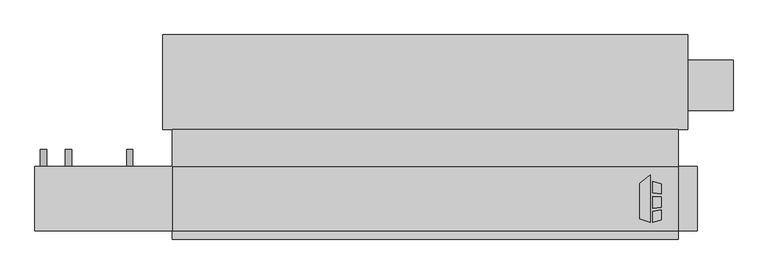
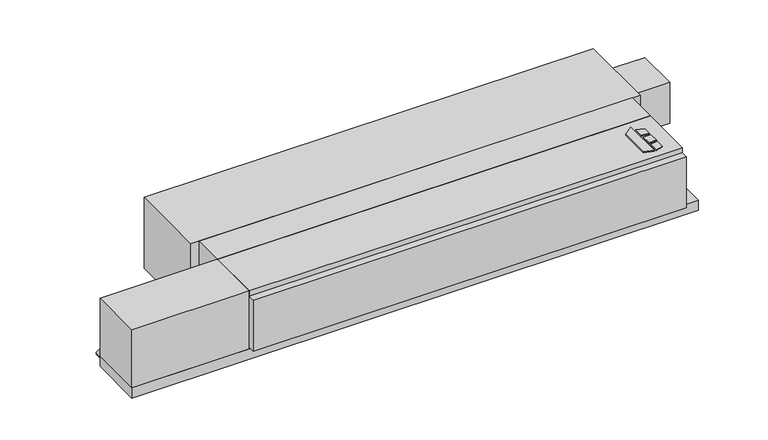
"""IFC4 building model written with IfcOpenShell, lengths in millimetres: proxy geometry, Concealed_Horizontal_Fan_Coil_Unit_With_Plenum_-_CPF_-_IEC_-_4-Pipe_LH : Size 12 - 115v/60Hz/1Ph - 4/1 Coil."""

import ifcopenshell
import ifcopenshell.guid

model = None  # the IFC model being written
_history = None  # IfcOwnerHistory: only IFC2X3 demands one
_inside = {}  # id of a spatial element -> (the spatial element, [elements in it])
_under = {}  # id of a project, library or spatial element -> (it, [spatial elements below it])
_declared = {}  # id of a project -> (the project, [libraries it declares])
_typed = {}  # id of a type object -> (the type object, [elements of that type])
_made_of = {}  # id of a material, layer set ... -> (it, [elements and type objects made of it])


def new_model(schema):
    """Start an empty IFC model of exactly this schema.

    Asked for "IFC4X3", IfcOpenShell would pick the latest addendum, in which some entities
    have other attributes; the version numbers below select the first issue.
    IFC2X3 requires an IfcOwnerHistory on every rooted entity: one is made here for all.
    """
    global model, _history
    if schema == "IFC4X3":
        model = ifcopenshell.file(schema_version=(4, 3, 0, 0))
    else:
        model = ifcopenshell.file(schema=schema)
    _inside.clear()
    _under.clear()
    _declared.clear()
    _typed.clear()
    _made_of.clear()
    _history = None
    if model.schema == "IFC2X3":
        org = make("IfcOrganization", Name="unknown")
        user = make(
            "IfcPersonAndOrganization",
            ThePerson=make("IfcPerson", FamilyName="unknown"),
            TheOrganization=org,
        )
        app = make(
            "IfcApplication",
            ApplicationDeveloper=org,
            Version="unknown",
            ApplicationFullName="unknown",
            ApplicationIdentifier="unknown",
        )
        _history = make(
            "IfcOwnerHistory",
            OwningUser=user,
            OwningApplication=app,
            ChangeAction="ADDED",
            CreationDate=0,
        )
    return model


def make(cls, **values):
    """One entity of the class cls with the attributes given. An attribute that is None is left unset."""
    return model.create_entity(
        cls, **{name: value for name, value in values.items() if value is not None}
    )


def rooted(cls, **values):
    """An entity with a GlobalId (a new one), such as an element, a storey or a relation."""
    return make(cls, GlobalId=ifcopenshell.guid.new(), OwnerHistory=_history, **values)


def si_unit(unit_type, name, prefix=None):
    """IfcSIUnit, for example si_unit("LENGTHUNIT", "METRE", prefix="MILLI")."""
    return make("IfcSIUnit", UnitType=unit_type, Prefix=prefix, Name=name)


def assignment(units):
    """IfcUnitAssignment: the units of a project."""
    return None if units is None else make("IfcUnitAssignment", Units=units)


def point(xyz):
    """IfcCartesianPoint."""
    return None if xyz is None else make("IfcCartesianPoint", Coordinates=xyz)


def direction(xyz):
    """IfcDirection."""
    return None if xyz is None else make("IfcDirection", DirectionRatios=xyz)


def frame(location, z_axis=None, x_axis=None):
    """IfcAxis2Placement3D, a coordinate frame: its origin and axes. An axis left out is left unset."""
    return make(
        "IfcAxis2Placement3D",
        Location=point(location),
        Axis=direction(z_axis),
        RefDirection=direction(x_axis),
    )


def frame_2d(location, x_axis=None):
    """IfcAxis2Placement2D, a coordinate frame in the plane: its origin and x axis."""
    return make(
        "IfcAxis2Placement2D", Location=point(location), RefDirection=direction(x_axis)
    )


def origin():
    """The frame at (0, 0, 0) with its axes left unset."""
    return frame((0.0, 0.0, 0.0))


def origin_with_axes():
    """The frame at (0, 0, 0) with the z axis (0, 0, 1) and the x axis (1, 0, 0) written out."""
    return frame((0.0, 0.0, 0.0), z_axis=(0.0, 0.0, 1.0), x_axis=(1.0, 0.0, 0.0))


def place(relative_to, where):
    """IfcLocalPlacement: puts the frame where relative to a parent placement (None: the world)."""
    return make(
        "IfcLocalPlacement", PlacementRelTo=relative_to, RelativePlacement=where
    )


def context(
    kind, dimensions, precision=None, world=None, true_north=None, identifier=None
):
    """IfcGeometricRepresentationContext, for example the 3D "Model" context."""
    return make(
        "IfcGeometricRepresentationContext",
        ContextIdentifier=identifier,
        ContextType=kind,
        CoordinateSpaceDimension=dimensions,
        Precision=precision,
        WorldCoordinateSystem=world,
        TrueNorth=true_north,
    )


def project(units=None, contexts=None):
    """IfcProject with its units and contexts."""
    return rooted(
        "IfcProject",
        Name="project",
        RepresentationContexts=contexts,
        UnitsInContext=assignment(units),
    )


def spatial(cls, under=None, at=None, **own):
    """A site, building, storey or space (cls), placed at a placement, below another one or the project."""
    s = rooted(cls, ObjectPlacement=at, **own)
    if under is not None:
        _under.setdefault(under.id(), (under, []))[1].append(s)
    return s


def polyline(points):
    """IfcPolyline through the points."""
    return make("IfcPolyline", Points=[point(p) for p in points])


def circle_curve(where, radius):
    """IfcCircle in the frame where."""
    return make("IfcCircle", Position=where, Radius=radius)


def trimmed(basis, trim1, trim2, sense, master):
    """IfcTrimmedCurve: the piece of a basis curve between two trims."""
    return make(
        "IfcTrimmedCurve",
        BasisCurve=basis,
        Trim1=trim1,
        Trim2=trim2,
        SenseAgreement=sense,
        MasterRepresentation=master,
    )


def segment(curve, same_sense, transition):
    """IfcCompositeCurveSegment."""
    return make(
        "IfcCompositeCurveSegment",
        Transition=transition,
        SameSense=same_sense,
        ParentCurve=curve,
    )


def composite_curve(segments, self_intersect=None):
    """IfcCompositeCurve: segments joined end to end."""
    return make("IfcCompositeCurve", Segments=segments, SelfIntersect=self_intersect)


def outline(outer, holes=None, kind="AREA"):
    """IfcArbitraryClosedProfileDef: a profile drawn as a closed curve; with holes, ...WithVoids."""
    if holes is None:
        return make("IfcArbitraryClosedProfileDef", ProfileType=kind, OuterCurve=outer)
    return make(
        "IfcArbitraryProfileDefWithVoids",
        ProfileType=kind,
        OuterCurve=outer,
        InnerCurves=holes,
    )


def extrude(swept, where, along, depth):
    """IfcExtrudedAreaSolid: the profile swept, set in the frame where, extruded along a direction by depth."""
    return make(
        "IfcExtrudedAreaSolid",
        SweptArea=swept,
        Position=where,
        ExtrudedDirection=direction(along),
        Depth=depth,
    )


def shape(context_of_items, identifier, shape_type, items):
    """IfcShapeRepresentation: the items that make up one representation, for example the "Body"."""
    return make(
        "IfcShapeRepresentation",
        ContextOfItems=context_of_items,
        RepresentationIdentifier=identifier,
        RepresentationType=shape_type,
        Items=items,
    )


def source(mapping_origin, context_of_items, identifier, shape_type, items):
    """IfcRepresentationMap: a shape defined once, which mapped items show again and again."""
    return make(
        "IfcRepresentationMap",
        MappingOrigin=mapping_origin,
        MappedRepresentation=shape(context_of_items, identifier, shape_type, items),
    )


def transform(
    local_origin,
    x_axis=None,
    y_axis=None,
    z_axis=None,
    scale=None,
    scale2=None,
    scale3=None,
    uniform=True,
):
    """IfcCartesianTransformationOperator3D, or its non-uniform kind. x_axis, y_axis, z_axis: its Axis1, 2, 3."""
    if uniform:
        return make(
            "IfcCartesianTransformationOperator3D",
            Axis1=direction(x_axis),
            Axis2=direction(y_axis),
            LocalOrigin=point(local_origin),
            Scale=scale,
            Axis3=direction(z_axis),
        )
    return make(
        "IfcCartesianTransformationOperator3DnonUniform",
        Axis1=direction(x_axis),
        Axis2=direction(y_axis),
        LocalOrigin=point(local_origin),
        Scale=scale,
        Axis3=direction(z_axis),
        Scale2=scale2,
        Scale3=scale3,
    )


def mapped(mapping_source, mapping_target):
    """IfcMappedItem: shows the shape of a source again, moved by a transform."""
    return make(
        "IfcMappedItem", MappingSource=mapping_source, MappingTarget=mapping_target
    )


def made_of(thing, what):
    """Note that an element or type object is made of a material, layer set ...; save() writes the relation."""
    if what is not None:
        _made_of.setdefault(what.id(), (what, []))[1].append(thing)
    return thing


def element(
    cls,
    number,
    at=None,
    inside=None,
    cuts=None,
    type_object=None,
    material=None,
    context=None,
    identifier="Body",
    shape_type=None,
    held_by="IfcProductDefinitionShape",
    body=None,
    shapes=None,
    **own,
):
    """One element of the class cls, such as IfcWall. Its Tag is "e" and its number.

    at: its placement. inside: the storey or other place that contains it. cuts: it is an
    opening in that element (IfcRelVoidsElement). A single representation is given by context,
    identifier, shape_type and body (its items); several are given by shapes. held_by: the class
    of the entity that holds the representations. save() writes the other relations.
    """
    e = rooted(cls, Tag="e%d" % number, ObjectPlacement=at, **own)
    if body is not None:
        shapes = [shape(context, identifier, shape_type, body)]
    if shapes is not None:
        e.Representation = make(held_by, Representations=shapes)
    if inside is not None:
        _inside.setdefault(inside.id(), (inside, []))[1].append(e)
    if cuts is not None:
        rooted(
            "IfcRelVoidsElement", RelatingBuildingElement=cuts, RelatedOpeningElement=e
        )
    if type_object is not None:
        _typed.setdefault(type_object.id(), (type_object, []))[1].append(e)
    return made_of(e, material)


def aggregate(whole, parts):
    """IfcRelAggregates: a whole, such as a stair, and the parts it consists of."""
    return rooted("IfcRelAggregates", RelatingObject=whole, RelatedObjects=parts)


def save(model, path):
    """Write the relations noted so far, then the file.

    IfcRelAggregates (storeys below a building ...), IfcRelContainedInSpatialStructure (elements
    in a storey), IfcRelDefinesByType, IfcRelAssociatesMaterial and IfcRelDeclares: one each for
    every whole, place, type object, material and project.
    """
    for whole, parts in _under.values():
        aggregate(whole, parts)
    for where, things in _inside.values():
        rooted(
            "IfcRelContainedInSpatialStructure",
            RelatedElements=things,
            RelatingStructure=where,
        )
    for kind, things in _typed.values():
        rooted("IfcRelDefinesByType", RelatedObjects=things, RelatingType=kind)
    for what, things in _made_of.values():
        rooted("IfcRelAssociatesMaterial", RelatedObjects=things, RelatingMaterial=what)
    for by, libraries in _declared.values():
        rooted("IfcRelDeclares", RelatingContext=by, RelatedDefinitions=libraries)
    model.write(path)


def mechanical_equipment_3bed9208(model_context):
    return source(origin(), model_context, "Body", "SweptSolid", [
        extrude(outline(polyline([(798.2019761, -193.0453476), (830.7602728, -167.6080184), (830.7602728, -309.5625), (798.2019761, -299.3429201), (798.2019761, -193.0453476)])), origin_with_axes(), (0.0, 0.0, 1.0), 3.175),
        extrude(outline(polyline([(837.5186058, -220.917352), (837.5186058, -186.4374379), (863.6, -194.6240115), (863.6, -224.1197446), (837.5186058, -220.917352)])), origin_with_axes(), (0.0, 0.0, 1.0), 3.175),
        extrude(outline(polyline([(863.6, -302.5740115), (837.5186058, -309.5625), (837.5186058, -276.3411996), (863.6, -272.7993564), (863.6, -302.5740115)])), origin_with_axes(), (0.0, 0.0, 1.0), 3.175),
        extrude(outline(polyline([(863.6, -233.2013277), (863.6, -264.451483), (837.5186058, -267.192748), (837.5186058, -231.3350378), (863.6, -233.2013277)])), origin_with_axes(), (0.0, 0.0, 1.0), 3.175),
        extrude(outline(polyline([(-609.6, -30.1625), (914.4, -30.1625), (914.4, -141.2875), (-609.6, -141.2875), (-609.6, -30.1625)])), frame((0.0, 0.0, -215.9), z_axis=(0.0, 0.0, 1.0), x_axis=(1.0, 0.0, 0.0)), (0.0, 0.0, 1.0), 215.9),
        extrude(outline(polyline([(-1022.35, -334.9625), (-1022.35, -141.2875), (-609.6, -141.2875), (-609.6, -334.9625), (-1022.35, -334.9625)])), frame((0.0, 0.0, -215.9), z_axis=(0.0, 0.0, 1.0), x_axis=(1.0, 0.0, 0.0)), (0.0, 0.0, 1.0), 215.9),
        extrude(outline(polyline([(971.55, -141.2875), (971.55, -334.9625), (-1022.35, -334.9625), (-1022.35, -141.2875), (971.55, -141.2875)])), frame((0.0, 0.0, -254.0), z_axis=(0.0, 0.0, 1.0), x_axis=(1.0, 0.0, 0.0)), (0.0, 0.0, 1.0), 38.1),
        extrude(outline(composite_curve([segment(trimmed(circle_curve(frame_2d((-158.75, -920.75)), 9.525), [point((-158.75, -911.225))], [point((-158.75, -930.275))], False, "CARTESIAN"), True, "CONTINUOUS"), segment(trimmed(circle_curve(frame_2d((-158.75, -920.75)), 9.525), [point((-158.75, -930.275))], [point((-158.75, -911.225))], False, "CARTESIAN"), True, "CONTINUOUS")], self_intersect=False)), frame((0.0, -141.2875, 0.0), z_axis=(0.0, 1.0, 0.0), x_axis=(0.0, 0.0, 1.0)), (0.0, 0.0, 1.0), 50.8),
        extrude(outline(composite_curve([segment(trimmed(circle_curve(frame_2d((-69.85, -920.75)), 9.525), [point((-69.85, -911.225))], [point((-69.85, -930.275))], False, "CARTESIAN"), True, "CONTINUOUS"), segment(trimmed(circle_curve(frame_2d((-69.85, -920.75)), 9.525), [point((-69.85, -930.275))], [point((-69.85, -911.225))], False, "CARTESIAN"), True, "CONTINUOUS")], self_intersect=False)), frame((0.0, -141.2875, 0.0), z_axis=(0.0, 1.0, 0.0), x_axis=(0.0, 0.0, 1.0)), (0.0, 0.0, 1.0), 50.8),
        extrude(outline(composite_curve([segment(trimmed(circle_curve(frame_2d((-69.85, -736.6)), 9.525), [point((-69.85, -727.075))], [point((-69.85, -746.125))], False, "CARTESIAN"), True, "CONTINUOUS"), segment(trimmed(circle_curve(frame_2d((-69.85, -736.6)), 9.525), [point((-69.85, -746.125))], [point((-69.85, -727.075))], False, "CARTESIAN"), True, "CONTINUOUS")], self_intersect=False)), frame((0.0, -141.2875, 0.0), z_axis=(0.0, 1.0, 0.0), x_axis=(0.0, 0.0, 1.0)), (0.0, 0.0, 1.0), 50.8),
        extrude(outline(composite_curve([segment(trimmed(circle_curve(frame_2d((-158.75, -736.6)), 9.525), [point((-158.75, -727.075))], [point((-158.75, -746.125))], False, "CARTESIAN"), True, "CONTINUOUS"), segment(trimmed(circle_curve(frame_2d((-158.75, -736.6)), 9.525), [point((-158.75, -746.125))], [point((-158.75, -727.075))], False, "CARTESIAN"), True, "CONTINUOUS")], self_intersect=False)), frame((0.0, -141.2875, 0.0), z_axis=(0.0, 1.0, 0.0), x_axis=(0.0, 0.0, 1.0)), (0.0, 0.0, 1.0), 50.8),
        extrude(outline(composite_curve([segment(trimmed(circle_curve(frame_2d((-241.3, -996.95)), 9.525), [point((-241.3, -1006.475))], [point((-241.3, -987.425))], False, "CARTESIAN"), True, "CONTINUOUS"), segment(trimmed(circle_curve(frame_2d((-241.3, -996.95)), 9.525), [point((-241.3, -987.425))], [point((-241.3, -1006.475))], False, "CARTESIAN"), True, "CONTINUOUS")], self_intersect=False)), frame((0.0, -141.2875, 0.0), z_axis=(0.0, 1.0, 0.0), x_axis=(0.0, 0.0, 1.0)), (0.0, 0.0, 1.0), 50.8),
        extrude(outline(polyline([(914.4, -334.9625), (914.4, -360.3625), (-609.6, -360.3625), (-609.6, -334.9625), (914.4, -334.9625)])), frame((0.0, 0.0, -209.55), z_axis=(0.0, 0.0, 1.0), x_axis=(1.0, 0.0, 0.0)), (0.0, 0.0, 1.0), 190.5),
        extrude(outline(polyline([(914.4, -334.9625), (-609.6, -334.9625), (-609.6, -141.2875), (914.4, -141.2875), (914.4, -334.9625)])), frame((0.0, 0.0, -215.9), z_axis=(0.0, 0.0, 1.0), x_axis=(1.0, 0.0, 0.0)), (0.0, 0.0, 1.0), 215.9),
        extrude(outline(polyline([(942.975, 26.9875), (942.975, 179.3875), (1079.5, 179.3875), (1079.5, 26.9875), (942.975, 26.9875)])), frame((0.0, 0.0, -187.325), z_axis=(0.0, 0.0, 1.0), x_axis=(1.0, 0.0, 0.0)), (0.0, 0.0, 1.0), 152.4),
        extrude(outline(polyline([(-638.175, 255.5875), (942.975, 255.5875), (942.975, -30.1625), (-638.175, -30.1625), (-638.175, 255.5875)])), frame((0.0, 0.0, -263.525), z_axis=(0.0, 0.0, 1.0), x_axis=(1.0, 0.0, 0.0)), (0.0, 0.0, 1.0), 263.525),
    ])


if __name__ == "__main__":
    model = new_model("IFC4")
    model_context = context("Model", 3, world=origin())
    ifc_project = project(units=[si_unit("LENGTHUNIT", "METRE", prefix="MILLI")], contexts=[model_context])
    site = spatial("IfcSite", under=ifc_project)
    building = spatial("IfcBuilding", under=site)
    placement = place(None, origin())
    mechanical_equipment_shape = mechanical_equipment_3bed9208(model_context)
    element("IfcBuildingElementProxy", 1, Name="Concealed_Horizontal_Fan_Coil_Unit_With_Plenum_-_CPF_-_IEC_-_4-Pipe_LH : Size 12 - 115v/60Hz/1Ph - 4/1 Coil", ObjectType="Concealed_Horizontal_Fan_Coil_Unit_With_Plenum_-_CPF_-_IEC_-_4-Pipe_LH : Size 12 - 115v/60Hz/1Ph - 4/1 Coil", at=placement, inside=building, context=model_context, shape_type="MappedRepresentation", body=[
        mapped(mechanical_equipment_shape, transform((0.0, 0.0, 0.0), x_axis=(1.0, 0.0, 0.0), y_axis=(0.0, 1.0, 0.0), z_axis=(0.0, 0.0, 1.0))),
    ])
    save(model, "model.ifc")
